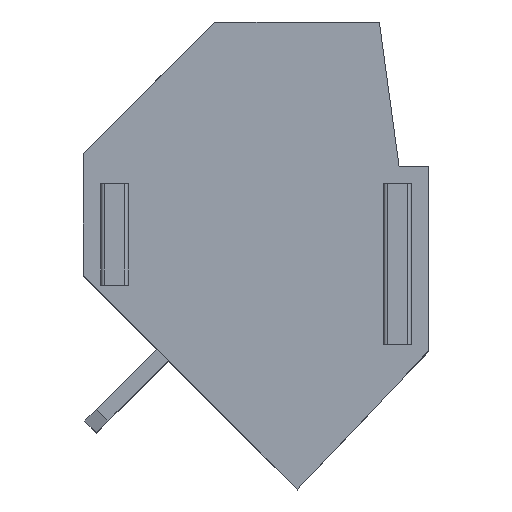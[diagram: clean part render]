
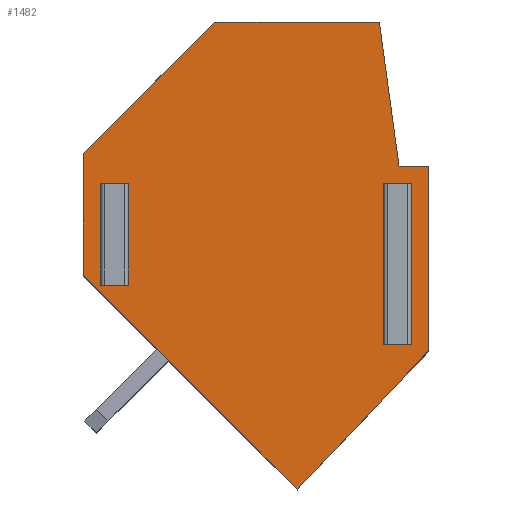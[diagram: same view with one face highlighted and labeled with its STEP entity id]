
A CAD part, top view. The second image highlights one B-rep face of the part: STEP entity #1482.
In plain terms, the highlighted planar face has unit normal (0, 0, 1).
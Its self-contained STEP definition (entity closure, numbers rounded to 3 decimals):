
#511 = EDGE_CURVE ( 'NONE', #512, #528, #3100, .T. ) ;
#512 = VERTEX_POINT ( 'NONE', #3096 ) ;
#520 = VERTEX_POINT ( 'NONE', #3081 ) ;
#525 = VERTEX_POINT ( 'NONE', #3139 ) ;
#527 = EDGE_CURVE ( 'NONE', #528, #525, #3138, .T. ) ;
#528 = VERTEX_POINT ( 'NONE', #3134 ) ;
#543 = EDGE_CURVE ( 'NONE', #544, #559, #3112, .T. ) ;
#544 = VERTEX_POINT ( 'NONE', #3168 ) ;
#554 = EDGE_CURVE ( 'NONE', #572, #578, #3157, .T. ) ;
#558 = EDGE_CURVE ( 'NONE', #559, #572, #3147, .T. ) ;
#559 = VERTEX_POINT ( 'NONE', #3209 ) ;
#568 = EDGE_CURVE ( 'NONE', #525, #520, #3191, .T. ) ;
#572 = VERTEX_POINT ( 'NONE', #3177 ) ;
#578 = VERTEX_POINT ( 'NONE', #3238 ) ;
#583 = EDGE_CURVE ( 'NONE', #520, #512, #3237, .T. ) ;
#612 = EDGE_CURVE ( 'NONE', #578, #544, #3306, .T. ) ;
#1201 = EDGE_CURVE ( 'NONE', #12605, #12581, #4278, .T. ) ;
#1404 = ORIENTED_EDGE ( 'NONE', *, *, #543, .T. ) ;
#1405 = ORIENTED_EDGE ( 'NONE', *, *, #558, .T. ) ;
#1406 = ORIENTED_EDGE ( 'NONE', *, *, #554, .T. ) ;
#1407 = EDGE_LOOP ( 'NONE', ( #1468, #1469, #1470, #1471, #1473, #1474, #1475, #1476 ) ) ;
#1455 = ORIENTED_EDGE ( 'NONE', *, *, #568, .T. ) ;
#1456 = ORIENTED_EDGE ( 'NONE', *, *, #583, .T. ) ;
#1457 = ORIENTED_EDGE ( 'NONE', *, *, #511, .T. ) ;
#1458 = ORIENTED_EDGE ( 'NONE', *, *, #527, .T. ) ;
#1468 = ORIENTED_EDGE ( 'NONE', *, *, #12663, .T. ) ;
#1469 = ORIENTED_EDGE ( 'NONE', *, *, #12770, .T. ) ;
#1470 = ORIENTED_EDGE ( 'NONE', *, *, #12467, .T. ) ;
#1471 = ORIENTED_EDGE ( 'NONE', *, *, #1472, .T. ) ;
#1472 = EDGE_CURVE ( 'NONE', #12464, #12608, #4697, .T. ) ;
#1473 = ORIENTED_EDGE ( 'NONE', *, *, #12607, .T. ) ;
#1474 = ORIENTED_EDGE ( 'NONE', *, *, #1201, .T. ) ;
#1475 = ORIENTED_EDGE ( 'NONE', *, *, #12580, .T. ) ;
#1476 = ORIENTED_EDGE ( 'NONE', *, *, #12638, .T. ) ;
#1477 = EDGE_LOOP ( 'NONE', ( #1455, #1456, #1457, #1458 ) ) ;
#1482 = ADVANCED_FACE ( 'NONE', ( #4693, #4692, #4691 ), #4690, .T. ) ;
#1483 = EDGE_LOOP ( 'NONE', ( #1484, #1404, #1405, #1406 ) ) ;
#1484 = ORIENTED_EDGE ( 'NONE', *, *, #612, .T. ) ;
#3081 = CARTESIAN_POINT ( 'NONE',  ( -215.537, 157.704, 0. ) ) ;
#3096 = CARTESIAN_POINT ( 'NONE',  ( -215.537, 154.604, 0. ) ) ;
#3097 = DIRECTION ( 'NONE',  ( -1., 0., 0. ) ) ;
#3098 = VECTOR ( 'NONE', #3097, 1000. ) ;
#3099 = CARTESIAN_POINT ( 'NONE',  ( -206.187, 154.604, 0. ) ) ;
#3100 = LINE ( 'NONE', #3099, #3098 ) ;
#3112 = LINE ( 'NONE', #3171, #3170 ) ;
#3134 = CARTESIAN_POINT ( 'NONE',  ( -215.937, 154.604, 0. ) ) ;
#3135 = DIRECTION ( 'NONE',  ( 0., 1., 0. ) ) ;
#3136 = VECTOR ( 'NONE', #3135, 1000. ) ;
#3137 = CARTESIAN_POINT ( 'NONE',  ( -215.937, 158.204, 0. ) ) ;
#3138 = LINE ( 'NONE', #3137, #3136 ) ;
#3139 = CARTESIAN_POINT ( 'NONE',  ( -215.937, 157.704, 0. ) ) ;
#3144 = DIRECTION ( 'NONE',  ( 0., 1., 0. ) ) ;
#3145 = VECTOR ( 'NONE', #3144, 1000. ) ;
#3146 = CARTESIAN_POINT ( 'NONE',  ( -207.337, 158.204, 0. ) ) ;
#3147 = LINE ( 'NONE', #3146, #3145 ) ;
#3154 = DIRECTION ( 'NONE',  ( 1., 0., 0. ) ) ;
#3155 = VECTOR ( 'NONE', #3154, 1000. ) ;
#3156 = CARTESIAN_POINT ( 'NONE',  ( -206.187, 157.704, 0. ) ) ;
#3157 = LINE ( 'NONE', #3156, #3155 ) ;
#3168 = CARTESIAN_POINT ( 'NONE',  ( -206.937, 152.804, 0. ) ) ;
#3169 = DIRECTION ( 'NONE',  ( -1., 0., 0. ) ) ;
#3170 = VECTOR ( 'NONE', #3169, 1000. ) ;
#3171 = CARTESIAN_POINT ( 'NONE',  ( -206.187, 152.804, 0. ) ) ;
#3177 = CARTESIAN_POINT ( 'NONE',  ( -207.337, 157.704, 0. ) ) ;
#3188 = DIRECTION ( 'NONE',  ( 1., 0., 0. ) ) ;
#3189 = VECTOR ( 'NONE', #3188, 1000. ) ;
#3190 = CARTESIAN_POINT ( 'NONE',  ( -206.187, 157.704, 0. ) ) ;
#3191 = LINE ( 'NONE', #3190, #3189 ) ;
#3209 = CARTESIAN_POINT ( 'NONE',  ( -207.337, 152.804, 0. ) ) ;
#3234 = DIRECTION ( 'NONE',  ( 0., -1., 0. ) ) ;
#3235 = VECTOR ( 'NONE', #3234, 1000. ) ;
#3236 = CARTESIAN_POINT ( 'NONE',  ( -215.537, 158.204, 0. ) ) ;
#3237 = LINE ( 'NONE', #3236, #3235 ) ;
#3238 = CARTESIAN_POINT ( 'NONE',  ( -206.937, 157.704, 0. ) ) ;
#3303 = DIRECTION ( 'NONE',  ( 0., -1., 0. ) ) ;
#3304 = VECTOR ( 'NONE', #3303, 1000. ) ;
#3305 = CARTESIAN_POINT ( 'NONE',  ( -206.937, 158.204, 0. ) ) ;
#3306 = LINE ( 'NONE', #3305, #3304 ) ;
#4275 = DIRECTION ( 'NONE',  ( -1., 0., 0. ) ) ;
#4276 = VECTOR ( 'NONE', #4275, 1000. ) ;
#4277 = CARTESIAN_POINT ( 'NONE',  ( -206.187, 158.204, 0. ) ) ;
#4278 = LINE ( 'NONE', #4277, #4276 ) ;
#4686 = DIRECTION ( 'NONE',  ( 1., 0., 0. ) ) ;
#4687 = DIRECTION ( 'NONE',  ( 0., 0., 1. ) ) ;
#4688 = CARTESIAN_POINT ( 'NONE',  ( -206.187, 158.204, 0. ) ) ;
#4689 = AXIS2_PLACEMENT_3D ( 'NONE', #4688, #4687, #4686 ) ;
#4690 = PLANE ( 'NONE',  #4689 ) ;
#4691 = FACE_BOUND ( 'NONE', #1477, .T. ) ;
#4692 = FACE_OUTER_BOUND ( 'NONE', #1407, .T. ) ;
#4693 = FACE_BOUND ( 'NONE', #1483, .T. ) ;
#4694 = DIRECTION ( 'NONE',  ( 0.69, 0.724, 0. ) ) ;
#4695 = VECTOR ( 'NONE', #4694, 1000. ) ;
#4696 = CARTESIAN_POINT ( 'NONE',  ( -210.187, 148.404, 0. ) ) ;
#4697 = LINE ( 'NONE', #4696, #4695 ) ;
#9033 = CARTESIAN_POINT ( 'NONE',  ( -216.687, 154.904, 0. ) ) ;
#9034 = DIRECTION ( 'NONE',  ( 0.707, -0.707, 0. ) ) ;
#9035 = VECTOR ( 'NONE', #9034, 1000. ) ;
#9036 = CARTESIAN_POINT ( 'NONE',  ( -216.687, 154.904, 0. ) ) ;
#9037 = LINE ( 'NONE', #9036, #9035 ) ;
#9038 = CARTESIAN_POINT ( 'NONE',  ( -210.187, 148.404, 0. ) ) ;
#9190 = CARTESIAN_POINT ( 'NONE',  ( -207.087, 158.204, 0. ) ) ;
#9191 = DIRECTION ( 'NONE',  ( -0.135, 0.991, 0. ) ) ;
#9192 = VECTOR ( 'NONE', #9191, 1000. ) ;
#9193 = CARTESIAN_POINT ( 'NONE',  ( -207.087, 158.204, 0. ) ) ;
#9194 = LINE ( 'NONE', #9193, #9192 ) ;
#9195 = CARTESIAN_POINT ( 'NONE',  ( -207.687, 162.604, 0. ) ) ;
#9222 = CARTESIAN_POINT ( 'NONE',  ( -206.187, 152.604, 0. ) ) ;
#9223 = DIRECTION ( 'NONE',  ( 0., 1., 0. ) ) ;
#9224 = VECTOR ( 'NONE', #9223, 1000. ) ;
#9225 = CARTESIAN_POINT ( 'NONE',  ( -206.187, 158.204, 0. ) ) ;
#9226 = LINE ( 'NONE', #9225, #9224 ) ;
#9227 = CARTESIAN_POINT ( 'NONE',  ( -206.187, 158.204, 0. ) ) ;
#9247 = DIRECTION ( 'NONE',  ( -1., 0., 0. ) ) ;
#9248 = VECTOR ( 'NONE', #9247, 1000. ) ;
#9249 = CARTESIAN_POINT ( 'NONE',  ( -206.187, 162.604, 0. ) ) ;
#9250 = LINE ( 'NONE', #9249, #9248 ) ;
#9251 = CARTESIAN_POINT ( 'NONE',  ( -212.687, 162.604, 0. ) ) ;
#9327 = DIRECTION ( 'NONE',  ( -0.707, -0.707, 0. ) ) ;
#9328 = VECTOR ( 'NONE', #9327, 1000. ) ;
#9329 = CARTESIAN_POINT ( 'NONE',  ( -212.687, 162.604, 0. ) ) ;
#9330 = LINE ( 'NONE', #9329, #9328 ) ;
#9331 = CARTESIAN_POINT ( 'NONE',  ( -216.687, 158.604, 0. ) ) ;
#9461 = LINE ( 'NONE', #9517, #9516 ) ;
#9515 = DIRECTION ( 'NONE',  ( 0., -1., 0. ) ) ;
#9516 = VECTOR ( 'NONE', #9515, 1000. ) ;
#9517 = CARTESIAN_POINT ( 'NONE',  ( -216.687, 158.204, 0. ) ) ;
#12464 = VERTEX_POINT ( 'NONE', #9038 ) ;
#12467 = EDGE_CURVE ( 'NONE', #12468, #12464, #9037, .T. ) ;
#12468 = VERTEX_POINT ( 'NONE', #9033 ) ;
#12578 = VERTEX_POINT ( 'NONE', #9195 ) ;
#12580 = EDGE_CURVE ( 'NONE', #12581, #12578, #9194, .T. ) ;
#12581 = VERTEX_POINT ( 'NONE', #9190 ) ;
#12605 = VERTEX_POINT ( 'NONE', #9227 ) ;
#12607 = EDGE_CURVE ( 'NONE', #12608, #12605, #9226, .T. ) ;
#12608 = VERTEX_POINT ( 'NONE', #9222 ) ;
#12636 = VERTEX_POINT ( 'NONE', #9251 ) ;
#12638 = EDGE_CURVE ( 'NONE', #12578, #12636, #9250, .T. ) ;
#12661 = VERTEX_POINT ( 'NONE', #9331 ) ;
#12663 = EDGE_CURVE ( 'NONE', #12636, #12661, #9330, .T. ) ;
#12770 = EDGE_CURVE ( 'NONE', #12661, #12468, #9461, .T. ) ;
